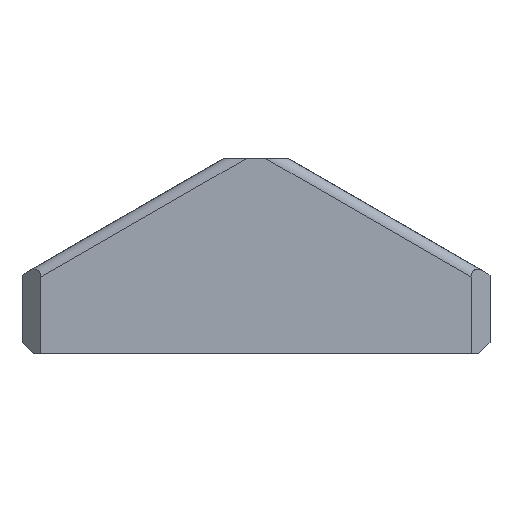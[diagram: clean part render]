
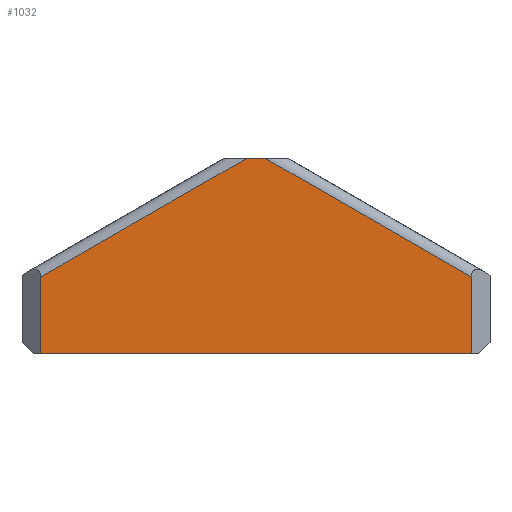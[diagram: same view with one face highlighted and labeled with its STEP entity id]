
A CAD part, front view. The second image highlights one B-rep face of the part: STEP entity #1032.
In plain terms, the highlighted planar face has unit normal (0, -1, 0).
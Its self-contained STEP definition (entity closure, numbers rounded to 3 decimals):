
#136 = ORIENTED_EDGE ( 'NONE', *, *, #4375, .T. ) ;
#163 = VECTOR ( 'NONE', #735, 1000. ) ;
#347 = EDGE_CURVE ( 'NONE', #1529, #5532, #1980, .T. ) ;
#399 = EDGE_CURVE ( 'NONE', #1127, #8060, #3394, .T. ) ;
#735 = DIRECTION ( 'NONE',  ( 0., 0., 1. ) ) ;
#1032 = ADVANCED_FACE ( 'NONE', ( #2310 ), #2800, .F. ) ;
#1127 = VERTEX_POINT ( 'NONE', #4903 ) ;
#1426 = CARTESIAN_POINT ( 'NONE',  ( -59.541, -189.933, 10.169 ) ) ;
#1529 = VERTEX_POINT ( 'NONE', #3551 ) ;
#1859 = CARTESIAN_POINT ( 'NONE',  ( -59.541, -189.933, 20.338 ) ) ;
#1980 = LINE ( 'NONE', #6009, #3588 ) ;
#2106 = ORIENTED_EDGE ( 'NONE', *, *, #347, .F. ) ;
#2258 = AXIS2_PLACEMENT_3D ( 'NONE', #3306, #3342, #3474 ) ;
#2310 = FACE_OUTER_BOUND ( 'NONE', #7492, .T. ) ;
#2762 = VECTOR ( 'NONE', #3148, 1000. ) ;
#2776 = CARTESIAN_POINT ( 'NONE',  ( -59.541, -189.933, 0. ) ) ;
#2800 = PLANE ( 'NONE',  #2258 ) ;
#3148 = DIRECTION ( 'NONE',  ( -0.866, 0., -0.5 ) ) ;
#3306 = CARTESIAN_POINT ( 'NONE',  ( -179.541, -189.933, 57. ) ) ;
#3326 = LINE ( 'NONE', #1426, #163 ) ;
#3342 = DIRECTION ( 'NONE',  ( 0., 1., 0. ) ) ;
#3346 = EDGE_CURVE ( 'NONE', #5532, #3898, #6335, .T. ) ;
#3394 = LINE ( 'NONE', #6952, #7248 ) ;
#3460 = CARTESIAN_POINT ( 'NONE',  ( -174.541, -189.933, 0. ) ) ;
#3474 = DIRECTION ( 'NONE',  ( 1., 0., 0. ) ) ;
#3551 = CARTESIAN_POINT ( 'NONE',  ( -119.702, -189.933, 52. ) ) ;
#3557 = DIRECTION ( 'NONE',  ( 0.866, 0., -0.5 ) ) ;
#3588 = VECTOR ( 'NONE', #6102, 1000. ) ;
#3706 = CARTESIAN_POINT ( 'NONE',  ( -117.041, -189.933, 0. ) ) ;
#3898 = VERTEX_POINT ( 'NONE', #1859 ) ;
#4265 = ORIENTED_EDGE ( 'NONE', *, *, #7624, .T. ) ;
#4375 = EDGE_CURVE ( 'NONE', #8060, #8513, #6180, .T. ) ;
#4575 = VECTOR ( 'NONE', #8503, 1000. ) ;
#4621 = ORIENTED_EDGE ( 'NONE', *, *, #399, .T. ) ;
#4903 = CARTESIAN_POINT ( 'NONE',  ( -174.541, -189.933, 20.338 ) ) ;
#5244 = CARTESIAN_POINT ( 'NONE',  ( -147.122, -189.933, 36.169 ) ) ;
#5532 = VERTEX_POINT ( 'NONE', #7952 ) ;
#5585 = CARTESIAN_POINT ( 'NONE',  ( -84.468, -189.933, 34.73 ) ) ;
#6009 = CARTESIAN_POINT ( 'NONE',  ( -117.041, -189.933, 52. ) ) ;
#6102 = DIRECTION ( 'NONE',  ( 1., 0., 0. ) ) ;
#6125 = VECTOR ( 'NONE', #3557, 1000. ) ;
#6180 = LINE ( 'NONE', #3706, #4575 ) ;
#6335 = LINE ( 'NONE', #5585, #6125 ) ;
#6381 = LINE ( 'NONE', #5244, #2762 ) ;
#6952 = CARTESIAN_POINT ( 'NONE',  ( -174.541, -189.933, 10.169 ) ) ;
#7248 = VECTOR ( 'NONE', #7537, 1000. ) ;
#7492 = EDGE_LOOP ( 'NONE', ( #8250, #4621, #136, #4265, #7885, #2106 ) ) ;
#7537 = DIRECTION ( 'NONE',  ( 0., 0., -1. ) ) ;
#7624 = EDGE_CURVE ( 'NONE', #8513, #3898, #3326, .T. ) ;
#7885 = ORIENTED_EDGE ( 'NONE', *, *, #3346, .F. ) ;
#7952 = CARTESIAN_POINT ( 'NONE',  ( -114.381, -189.933, 52. ) ) ;
#8060 = VERTEX_POINT ( 'NONE', #3460 ) ;
#8250 = ORIENTED_EDGE ( 'NONE', *, *, #8891, .T. ) ;
#8503 = DIRECTION ( 'NONE',  ( 1., 0., 0. ) ) ;
#8513 = VERTEX_POINT ( 'NONE', #2776 ) ;
#8891 = EDGE_CURVE ( 'NONE', #1529, #1127, #6381, .T. ) ;
